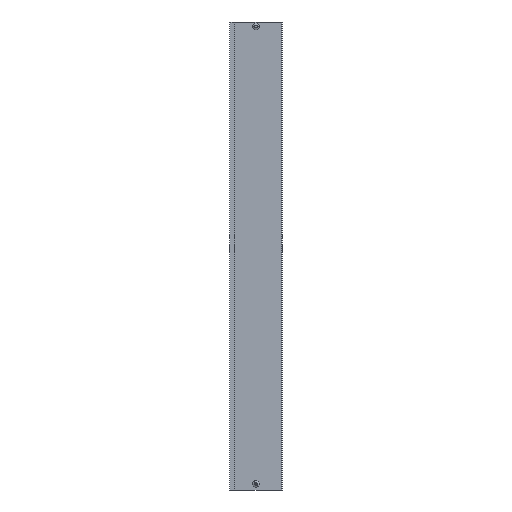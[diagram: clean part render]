
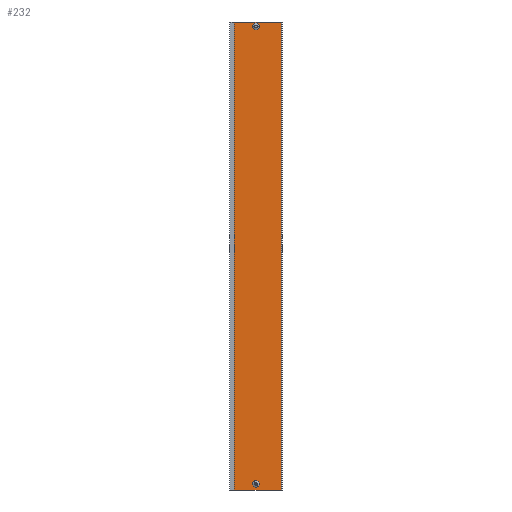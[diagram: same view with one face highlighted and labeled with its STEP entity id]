
A CAD part, front view. The second image highlights one B-rep face of the part: STEP entity #232.
In plain terms, the highlighted planar face has unit normal (0, -1, 0).
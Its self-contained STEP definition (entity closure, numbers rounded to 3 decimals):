
#2 = DIRECTION ( 'NONE',  ( 0., 1., 0. ) ) ;
#7 = CARTESIAN_POINT ( 'NONE',  ( 44.5, 11., 8.5 ) ) ;
#9 = CARTESIAN_POINT ( 'NONE',  ( 44.5, 11., 8.5 ) ) ;
#11 = LINE ( 'NONE', #972, #1933 ) ;
#20 = CARTESIAN_POINT ( 'NONE',  ( -4.8, 11., 879. ) ) ;
#27 = ORIENTED_EDGE ( 'NONE', *, *, #1349, .F. ) ;
#29 = EDGE_CURVE ( 'NONE', #1834, #1483, #1171, .T. ) ;
#45 = CIRCLE ( 'NONE', #1350, 3.5 ) ;
#50 = EDGE_CURVE ( 'NONE', #1690, #307, #428, .T. ) ;
#53 = VECTOR ( 'NONE', #763, 1000. ) ;
#56 = ORIENTED_EDGE ( 'NONE', *, *, #156, .F. ) ;
#100 = VECTOR ( 'NONE', #206, 1000. ) ;
#107 = ORIENTED_EDGE ( 'NONE', *, *, #938, .F. ) ;
#115 = DIRECTION ( 'NONE',  ( 0., 1., 0. ) ) ;
#123 = CARTESIAN_POINT ( 'NONE',  ( 44.5, 11., 870.5 ) ) ;
#125 = DIRECTION ( 'NONE',  ( 0., 0., -1. ) ) ;
#126 = VERTEX_POINT ( 'NONE', #963 ) ;
#156 = EDGE_CURVE ( 'NONE', #1274, #1938, #11, .T. ) ;
#166 = CARTESIAN_POINT ( 'NONE',  ( 37.5, 11., 11.5 ) ) ;
#176 = DIRECTION ( 'NONE',  ( 0., 0., -1. ) ) ;
#196 = EDGE_LOOP ( 'NONE', ( #686, #1198, #728, #1840, #309 ) ) ;
#206 = DIRECTION ( 'NONE',  ( 1., 0., 0. ) ) ;
#218 = DIRECTION ( 'NONE',  ( -1., 0., 0. ) ) ;
#219 = DIRECTION ( 'NONE',  ( 0., 1., 0. ) ) ;
#222 = CARTESIAN_POINT ( 'NONE',  ( 37.5, 11., 8.5 ) ) ;
#232 = ADVANCED_FACE ( 'NONE', ( #1900, #800, #1584 ), #357, .F. ) ;
#233 = LINE ( 'NONE', #1505, #1357 ) ;
#241 = LINE ( 'NONE', #873, #1348 ) ;
#260 = VECTOR ( 'NONE', #381, 1000. ) ;
#266 = CARTESIAN_POINT ( 'NONE',  ( 41., 11., 867.5 ) ) ;
#283 = LINE ( 'NONE', #123, #53 ) ;
#285 = CARTESIAN_POINT ( 'NONE',  ( 41., 11., 11.5 ) ) ;
#307 = VERTEX_POINT ( 'NONE', #222 ) ;
#309 = ORIENTED_EDGE ( 'NONE', *, *, #325, .T. ) ;
#325 = EDGE_CURVE ( 'NONE', #1786, #1115, #233, .T. ) ;
#340 = LINE ( 'NONE', #670, #847 ) ;
#357 = PLANE ( 'NONE',  #438 ) ;
#362 = CIRCLE ( 'NONE', #1305, 3.5 ) ;
#372 = CARTESIAN_POINT ( 'NONE',  ( 90., 11., 879. ) ) ;
#381 = DIRECTION ( 'NONE',  ( 1., 0., 0. ) ) ;
#384 = ORIENTED_EDGE ( 'NONE', *, *, #29, .T. ) ;
#387 = VERTEX_POINT ( 'NONE', #1376 ) ;
#388 = CARTESIAN_POINT ( 'NONE',  ( -4.8, 11., 0. ) ) ;
#396 = ORIENTED_EDGE ( 'NONE', *, *, #692, .F. ) ;
#409 = CARTESIAN_POINT ( 'NONE',  ( 86.8, 11., 879. ) ) ;
#428 = CIRCLE ( 'NONE', #949, 3.5 ) ;
#438 = AXIS2_PLACEMENT_3D ( 'NONE', #1414, #1100, #480 ) ;
#452 = ORIENTED_EDGE ( 'NONE', *, *, #893, .F. ) ;
#461 = VECTOR ( 'NONE', #1885, 1000. ) ;
#480 = DIRECTION ( 'NONE',  ( 0., 0., 1. ) ) ;
#481 = LINE ( 'NONE', #1731, #1897 ) ;
#496 = CIRCLE ( 'NONE', #687, 3.5 ) ;
#518 = VECTOR ( 'NONE', #218, 1000. ) ;
#524 = EDGE_LOOP ( 'NONE', ( #107, #824, #987, #27, #396, #56, #979, #452 ) ) ;
#534 = AXIS2_PLACEMENT_3D ( 'NONE', #285, #776, #125 ) ;
#553 = DIRECTION ( 'NONE',  ( 0., 0., -1. ) ) ;
#561 = EDGE_CURVE ( 'NONE', #1834, #307, #667, .T. ) ;
#569 = CARTESIAN_POINT ( 'NONE',  ( -6.5, 11., 879. ) ) ;
#570 = EDGE_CURVE ( 'NONE', #1952, #1274, #481, .T. ) ;
#584 = ORIENTED_EDGE ( 'NONE', *, *, #50, .T. ) ;
#598 = EDGE_CURVE ( 'NONE', #690, #1483, #1422, .T. ) ;
#642 = CARTESIAN_POINT ( 'NONE',  ( 37.5, 11., 867.5 ) ) ;
#653 = DIRECTION ( 'NONE',  ( 0., 0., 1. ) ) ;
#667 = LINE ( 'NONE', #1910, #1359 ) ;
#668 = EDGE_CURVE ( 'NONE', #985, #1946, #283, .T. ) ;
#670 = CARTESIAN_POINT ( 'NONE',  ( 88.5, 11., 879. ) ) ;
#675 = EDGE_LOOP ( 'NONE', ( #584, #923, #384, #1995, #779 ) ) ;
#686 = ORIENTED_EDGE ( 'NONE', *, *, #1827, .T. ) ;
#687 = AXIS2_PLACEMENT_3D ( 'NONE', #1129, #1103, #1743 ) ;
#690 = VERTEX_POINT ( 'NONE', #9 ) ;
#692 = EDGE_CURVE ( 'NONE', #1938, #1023, #1437, .T. ) ;
#701 = CARTESIAN_POINT ( 'NONE',  ( 88.5, 11., 0. ) ) ;
#728 = ORIENTED_EDGE ( 'NONE', *, *, #1410, .T. ) ;
#734 = EDGE_CURVE ( 'NONE', #1969, #126, #1744, .T. ) ;
#763 = DIRECTION ( 'NONE',  ( 0., 0., -1. ) ) ;
#776 = DIRECTION ( 'NONE',  ( 0., 1., 0. ) ) ;
#779 = ORIENTED_EDGE ( 'NONE', *, *, #1812, .T. ) ;
#800 = FACE_BOUND ( 'NONE', #196, .T. ) ;
#824 = ORIENTED_EDGE ( 'NONE', *, *, #1301, .F. ) ;
#847 = VECTOR ( 'NONE', #1914, 1000. ) ;
#863 = CARTESIAN_POINT ( 'NONE',  ( -6.5, 11., 879. ) ) ;
#873 = CARTESIAN_POINT ( 'NONE',  ( 86.8, 11., 0. ) ) ;
#887 = DIRECTION ( 'NONE',  ( 0., 0., 1. ) ) ;
#893 = EDGE_CURVE ( 'NONE', #1058, #1952, #1227, .T. ) ;
#923 = ORIENTED_EDGE ( 'NONE', *, *, #561, .F. ) ;
#938 = EDGE_CURVE ( 'NONE', #1327, #1058, #241, .T. ) ;
#949 = AXIS2_PLACEMENT_3D ( 'NONE', #1210, #1848, #1829 ) ;
#963 = CARTESIAN_POINT ( 'NONE',  ( 88.5, 11., 879. ) ) ;
#964 = CARTESIAN_POINT ( 'NONE',  ( 41., 11., 5. ) ) ;
#972 = CARTESIAN_POINT ( 'NONE',  ( -6.5, 11., 879. ) ) ;
#979 = ORIENTED_EDGE ( 'NONE', *, *, #570, .F. ) ;
#985 = VERTEX_POINT ( 'NONE', #1550 ) ;
#987 = ORIENTED_EDGE ( 'NONE', *, *, #734, .F. ) ;
#1023 = VERTEX_POINT ( 'NONE', #2022 ) ;
#1058 = VERTEX_POINT ( 'NONE', #1658 ) ;
#1100 = DIRECTION ( 'NONE',  ( 0., 1., 0. ) ) ;
#1103 = DIRECTION ( 'NONE',  ( 0., 1., 0. ) ) ;
#1115 = VERTEX_POINT ( 'NONE', #1245 ) ;
#1125 = DIRECTION ( 'NONE',  ( -1., 0., 0. ) ) ;
#1129 = CARTESIAN_POINT ( 'NONE',  ( 41., 11., 870.5 ) ) ;
#1142 = CARTESIAN_POINT ( 'NONE',  ( -6.5, 11., 0. ) ) ;
#1169 = CARTESIAN_POINT ( 'NONE',  ( 88.5, 11., 0. ) ) ;
#1171 = CIRCLE ( 'NONE', #534, 3.5 ) ;
#1196 = CIRCLE ( 'NONE', #1889, 3.5 ) ;
#1198 = ORIENTED_EDGE ( 'NONE', *, *, #668, .T. ) ;
#1202 = DIRECTION ( 'NONE',  ( -1., 0., 0. ) ) ;
#1210 = CARTESIAN_POINT ( 'NONE',  ( 41., 11., 8.5 ) ) ;
#1227 = LINE ( 'NONE', #1169, #518 ) ;
#1245 = CARTESIAN_POINT ( 'NONE',  ( 37.5, 11., 870.5 ) ) ;
#1274 = VERTEX_POINT ( 'NONE', #1142 ) ;
#1301 = EDGE_CURVE ( 'NONE', #126, #1327, #340, .T. ) ;
#1305 = AXIS2_PLACEMENT_3D ( 'NONE', #1920, #2, #176 ) ;
#1308 = CARTESIAN_POINT ( 'NONE',  ( 44.5, 11., 867.5 ) ) ;
#1327 = VERTEX_POINT ( 'NONE', #701 ) ;
#1348 = VECTOR ( 'NONE', #1202, 1000. ) ;
#1349 = EDGE_CURVE ( 'NONE', #1023, #1969, #1951, .T. ) ;
#1350 = AXIS2_PLACEMENT_3D ( 'NONE', #1816, #219, #553 ) ;
#1357 = VECTOR ( 'NONE', #887, 1000. ) ;
#1359 = VECTOR ( 'NONE', #1875, 1000. ) ;
#1376 = CARTESIAN_POINT ( 'NONE',  ( 41., 11., 864. ) ) ;
#1410 = EDGE_CURVE ( 'NONE', #1946, #387, #45, .T. ) ;
#1414 = CARTESIAN_POINT ( 'NONE',  ( -8., 11., 879. ) ) ;
#1422 = LINE ( 'NONE', #7, #461 ) ;
#1437 = LINE ( 'NONE', #20, #100 ) ;
#1476 = CARTESIAN_POINT ( 'NONE',  ( 44.5, 11., 11.5 ) ) ;
#1478 = DIRECTION ( 'NONE',  ( 1., 0., 0. ) ) ;
#1483 = VERTEX_POINT ( 'NONE', #1476 ) ;
#1490 = VECTOR ( 'NONE', #1478, 1000. ) ;
#1505 = CARTESIAN_POINT ( 'NONE',  ( 37.5, 11., 870.5 ) ) ;
#1516 = DIRECTION ( 'NONE',  ( 0., 0., -1. ) ) ;
#1550 = CARTESIAN_POINT ( 'NONE',  ( 44.5, 11., 870.5 ) ) ;
#1568 = EDGE_CURVE ( 'NONE', #387, #1786, #1196, .T. ) ;
#1584 = FACE_OUTER_BOUND ( 'NONE', #524, .T. ) ;
#1658 = CARTESIAN_POINT ( 'NONE',  ( 86.8, 11., 0. ) ) ;
#1690 = VERTEX_POINT ( 'NONE', #964 ) ;
#1731 = CARTESIAN_POINT ( 'NONE',  ( -8., 11., 0. ) ) ;
#1743 = DIRECTION ( 'NONE',  ( 0., 0., -1. ) ) ;
#1744 = LINE ( 'NONE', #372, #260 ) ;
#1786 = VERTEX_POINT ( 'NONE', #642 ) ;
#1812 = EDGE_CURVE ( 'NONE', #690, #1690, #362, .T. ) ;
#1816 = CARTESIAN_POINT ( 'NONE',  ( 41., 11., 867.5 ) ) ;
#1827 = EDGE_CURVE ( 'NONE', #1115, #985, #496, .T. ) ;
#1829 = DIRECTION ( 'NONE',  ( 0., 0., -1. ) ) ;
#1834 = VERTEX_POINT ( 'NONE', #166 ) ;
#1840 = ORIENTED_EDGE ( 'NONE', *, *, #1568, .T. ) ;
#1848 = DIRECTION ( 'NONE',  ( 0., 1., 0. ) ) ;
#1875 = DIRECTION ( 'NONE',  ( 0., 0., -1. ) ) ;
#1885 = DIRECTION ( 'NONE',  ( 0., 0., 1. ) ) ;
#1889 = AXIS2_PLACEMENT_3D ( 'NONE', #266, #115, #1516 ) ;
#1897 = VECTOR ( 'NONE', #1125, 1000. ) ;
#1900 = FACE_BOUND ( 'NONE', #675, .T. ) ;
#1910 = CARTESIAN_POINT ( 'NONE',  ( 37.5, 11., 8.5 ) ) ;
#1914 = DIRECTION ( 'NONE',  ( 0., 0., -1. ) ) ;
#1920 = CARTESIAN_POINT ( 'NONE',  ( 41., 11., 8.5 ) ) ;
#1933 = VECTOR ( 'NONE', #653, 1000. ) ;
#1938 = VERTEX_POINT ( 'NONE', #863 ) ;
#1946 = VERTEX_POINT ( 'NONE', #1308 ) ;
#1951 = LINE ( 'NONE', #569, #1490 ) ;
#1952 = VERTEX_POINT ( 'NONE', #388 ) ;
#1969 = VERTEX_POINT ( 'NONE', #409 ) ;
#1995 = ORIENTED_EDGE ( 'NONE', *, *, #598, .F. ) ;
#2022 = CARTESIAN_POINT ( 'NONE',  ( -4.8, 11., 879. ) ) ;
